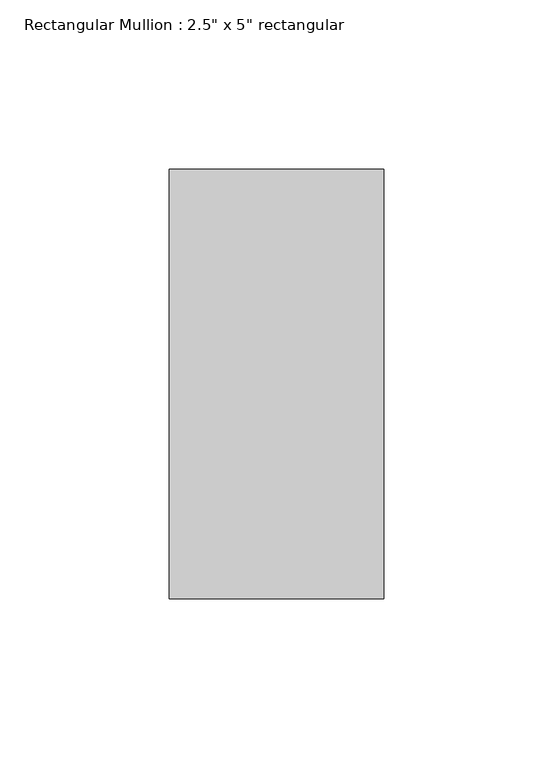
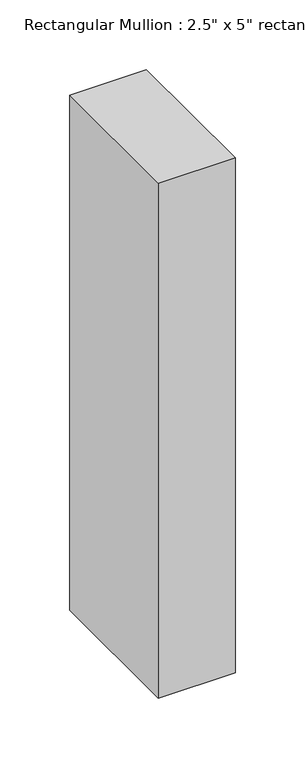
"""IFC4 building model written with IfcOpenShell, lengths in millimetres: member geometry."""

from ifc_helpers import new_model, si_unit, frame, origin, place, context, project, spatial, polyline, outline, extrude, source, transform, mapped, element, save


def member_6ec9f0f0(model_context):
    return source(origin(), model_context, "Body", "SweptSolid", [
        extrude(outline(polyline([(31.75, 63.5), (31.75, -63.5), (-31.75, -63.5), (-31.75, 63.5), (31.75, 63.5)])), frame((0.0, 0.0, -450.6909107), z_axis=(0.0, 0.0, 1.0), x_axis=(1.0, 0.0, 0.0)), (0.0, 0.0, 1.0), 450.6909107),
    ])


if __name__ == "__main__":
    model = new_model("IFC4")
    model_context = context("Model", 3, world=origin())
    ifc_project = project(units=[si_unit("LENGTHUNIT", "METRE", prefix="MILLI")], contexts=[model_context])
    site = spatial("IfcSite", under=ifc_project)
    building = spatial("IfcBuilding", under=site)
    placement = place(None, origin())
    member_shape = member_6ec9f0f0(model_context)
    element("IfcMember", 1, ObjectType="Rectangular Mullion : 2.5\" x 5\" rectangular", at=placement, inside=building, context=model_context, shape_type="MappedRepresentation", body=[
        mapped(member_shape, transform((0.0, 0.0, 0.0), x_axis=(1.0, 0.0, 0.0), y_axis=(0.0, 1.0, 0.0), z_axis=(0.0, 0.0, 1.0))),
    ])
    save(model, "model.ifc")
